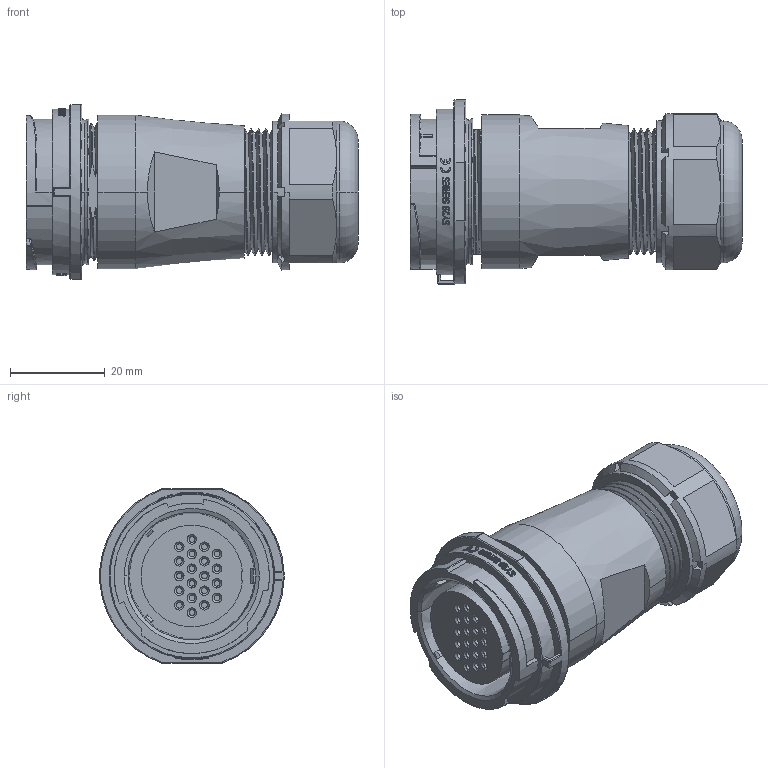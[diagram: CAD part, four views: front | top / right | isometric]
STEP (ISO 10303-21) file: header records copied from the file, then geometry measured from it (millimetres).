
FILE_DESCRIPTION((''),'2;1');
FILE_NAME('PRT0001','2021-03-22T',('Administrator'),(''),'CREO PARAMETRIC BY PTC INC, 2016130','CREO PARAMETRIC BY PTC INC, 2016130','');
FILE_SCHEMA(('AUTOMOTIVE_DESIGN { 1 0 10303 214 1 1 1 1 }'));
Length unit declared in the file: millimetre
Products named in the file (1): PRT0001
Bounding box: 70.2 x 38.93 x 37 mm (x, y, z)
Volume: 49467.9 mm3; surface area: 12410.3 mm2
Topology: 2 solids, 2 shells, 616 faces, 1584 edges, 1021 vertices
Faces by surface type: plane 219, extrusion 157, cylinder 117, cone 60, bspline 32, torus 19, sphere 12
Entity records: 24641 total; most frequent: CARTESIAN_POINT 10239, ORIENTED_EDGE 3168, DIRECTION 2565, EDGE_CURVE 1584, VERTEX_POINT 1021, AXIS2_PLACEMENT_3D 864, VECTOR 837, LINE 680
